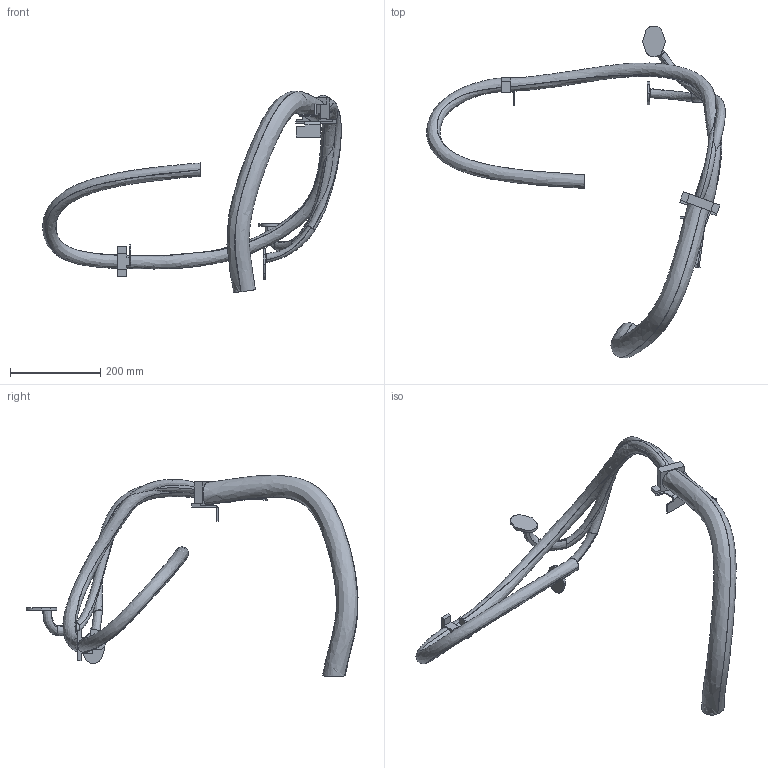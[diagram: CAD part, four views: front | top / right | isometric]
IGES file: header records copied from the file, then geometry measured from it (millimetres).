
Start section: SolidWorks IGES file using analytic representation for surfaces
Global section: file name: B:\Robotics\SEROP_PROJ\Product Development\DevelopmentProjects\RobCal\Design\CAD simuleringsmodeller\Till_RobotStudio\IRB6700-HL\IRB6700_235-265_IRC5_rev02\IRB6700_235-265_IRC5_rev02_IGES_j\IRB6700_235-265_IRC5_rev02_LINK03m_CABLE.IGS; native system: SolidWorks 2014; preprocessor: SolidWorks 2014; author: SEEMTHE; date: 160127.112509; units: millimetre
Bounding box: 660.85 x 735.05 x 446.57 mm (x, y, z)
Surface area: 329373.1 mm2 (no closed solid volume)
Topology: 0 solids, 0 shells, 127 faces, 2270 edges, 2268 vertices
Faces by surface type: bspline 118, revolution 9
